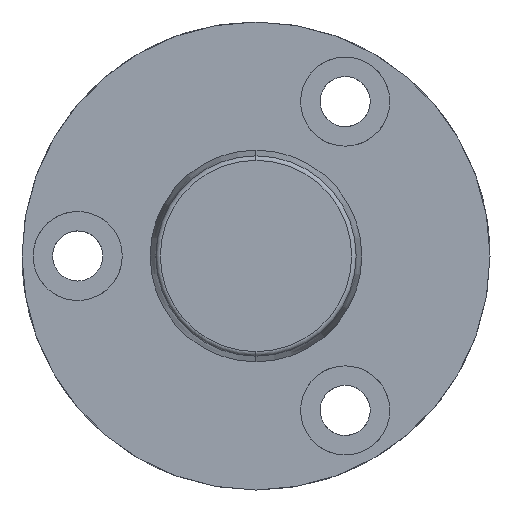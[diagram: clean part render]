
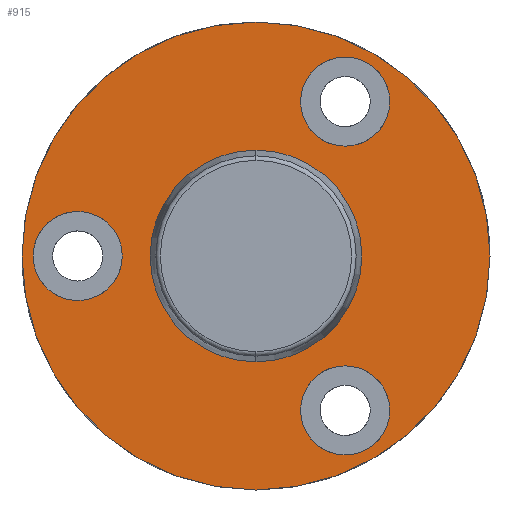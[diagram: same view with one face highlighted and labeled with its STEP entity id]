
A CAD part, left-side view. The second image highlights one B-rep face of the part: STEP entity #915.
In plain terms, the highlighted planar face has unit normal (-1, 0, 0).
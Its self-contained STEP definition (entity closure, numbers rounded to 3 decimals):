
#429=CARTESIAN_POINT('Vertex',(-8.,0.,-21.)) ;
#432=CARTESIAN_POINT('Axis2P3D Location',(-8.,0.,0.)) ;
#436=CARTESIAN_POINT('Vertex',(-8.,21.,0.)) ;
#439=CARTESIAN_POINT('Axis2P3D Location',(-8.,0.,0.)) ;
#443=CARTESIAN_POINT('Vertex',(-8.,0.,21.)) ;
#465=CARTESIAN_POINT('Axis2P3D Location',(-8.,0.,0.)) ;
#469=CARTESIAN_POINT('Vertex',(-8.,-21.,0.)) ;
#472=CARTESIAN_POINT('Axis2P3D Location',(-8.,0.,0.)) ;
#768=CARTESIAN_POINT('Axis2P3D Location',(-8.,8.,0.)) ;
#779=CARTESIAN_POINT('Axis2P3D Location',(-8.,16.,0.)) ;
#783=CARTESIAN_POINT('Vertex',(-8.,16.,4.)) ;
#785=CARTESIAN_POINT('Vertex',(-8.,20.,0.)) ;
#788=CARTESIAN_POINT('Axis2P3D Location',(-8.,16.,0.)) ;
#792=CARTESIAN_POINT('Vertex',(-8.,12.,0.)) ;
#795=CARTESIAN_POINT('Axis2P3D Location',(-8.,16.,0.)) ;
#799=CARTESIAN_POINT('Vertex',(-8.,16.,-4.)) ;
#802=CARTESIAN_POINT('Axis2P3D Location',(-8.,16.,0.)) ;
#813=CARTESIAN_POINT('Axis2P3D Location',(-8.,-8.,13.856)) ;
#817=CARTESIAN_POINT('Vertex',(-8.,-4.,13.856)) ;
#819=CARTESIAN_POINT('Vertex',(-8.,-8.,17.856)) ;
#822=CARTESIAN_POINT('Axis2P3D Location',(-8.,-8.,13.856)) ;
#826=CARTESIAN_POINT('Vertex',(-8.,-12.,13.856)) ;
#829=CARTESIAN_POINT('Axis2P3D Location',(-8.,-8.,13.856)) ;
#833=CARTESIAN_POINT('Vertex',(-8.,-8.,9.856)) ;
#836=CARTESIAN_POINT('Axis2P3D Location',(-8.,-8.,13.856)) ;
#847=CARTESIAN_POINT('Axis2P3D Location',(-8.,-8.,-13.856)) ;
#851=CARTESIAN_POINT('Vertex',(-8.,-4.,-13.856)) ;
#853=CARTESIAN_POINT('Vertex',(-8.,-8.,-9.856)) ;
#856=CARTESIAN_POINT('Axis2P3D Location',(-8.,-8.,-13.856)) ;
#860=CARTESIAN_POINT('Vertex',(-8.,-12.,-13.856)) ;
#863=CARTESIAN_POINT('Axis2P3D Location',(-8.,-8.,-13.856)) ;
#867=CARTESIAN_POINT('Vertex',(-8.,-8.,-17.856)) ;
#870=CARTESIAN_POINT('Axis2P3D Location',(-8.,-8.,-13.856)) ;
#881=CARTESIAN_POINT('Axis2P3D Location',(-8.,0.,0.)) ;
#885=CARTESIAN_POINT('Vertex',(-8.,8.,0.)) ;
#887=CARTESIAN_POINT('Vertex',(-8.,0.,8.)) ;
#890=CARTESIAN_POINT('Axis2P3D Location',(-8.,0.,0.)) ;
#894=CARTESIAN_POINT('Vertex',(-8.,-8.,0.)) ;
#897=CARTESIAN_POINT('Axis2P3D Location',(-8.,0.,0.)) ;
#901=CARTESIAN_POINT('Vertex',(-8.,0.,-8.)) ;
#904=CARTESIAN_POINT('Axis2P3D Location',(-8.,0.,0.)) ;
#433=DIRECTION('Axis2P3D Direction',(-1.,-0.,-0.)) ;
#440=DIRECTION('Axis2P3D Direction',(-1.,-0.,-0.)) ;
#466=DIRECTION('Axis2P3D Direction',(-1.,-0.,-0.)) ;
#473=DIRECTION('Axis2P3D Direction',(-1.,-0.,-0.)) ;
#769=DIRECTION('Axis2P3D Direction',(1.,0.,-0.)) ;
#770=DIRECTION('Axis2P3D XDirection',(-0.,0.,-1.)) ;
#780=DIRECTION('Axis2P3D Direction',(1.,0.,-0.)) ;
#789=DIRECTION('Axis2P3D Direction',(1.,0.,-0.)) ;
#796=DIRECTION('Axis2P3D Direction',(1.,0.,-0.)) ;
#803=DIRECTION('Axis2P3D Direction',(1.,0.,-0.)) ;
#814=DIRECTION('Axis2P3D Direction',(1.,0.,-0.)) ;
#823=DIRECTION('Axis2P3D Direction',(1.,0.,-0.)) ;
#830=DIRECTION('Axis2P3D Direction',(1.,0.,-0.)) ;
#837=DIRECTION('Axis2P3D Direction',(1.,0.,-0.)) ;
#848=DIRECTION('Axis2P3D Direction',(1.,0.,-0.)) ;
#857=DIRECTION('Axis2P3D Direction',(1.,0.,-0.)) ;
#864=DIRECTION('Axis2P3D Direction',(1.,0.,-0.)) ;
#871=DIRECTION('Axis2P3D Direction',(1.,0.,-0.)) ;
#882=DIRECTION('Axis2P3D Direction',(1.,0.,-0.)) ;
#891=DIRECTION('Axis2P3D Direction',(1.,0.,-0.)) ;
#898=DIRECTION('Axis2P3D Direction',(1.,0.,-0.)) ;
#905=DIRECTION('Axis2P3D Direction',(1.,0.,-0.)) ;
#434=AXIS2_PLACEMENT_3D('Circle Axis2P3D',#432,#433,$) ;
#441=AXIS2_PLACEMENT_3D('Circle Axis2P3D',#439,#440,$) ;
#467=AXIS2_PLACEMENT_3D('Circle Axis2P3D',#465,#466,$) ;
#474=AXIS2_PLACEMENT_3D('Circle Axis2P3D',#472,#473,$) ;
#771=AXIS2_PLACEMENT_3D('Plane Axis2P3D',#768,#769,#770) ;
#781=AXIS2_PLACEMENT_3D('Circle Axis2P3D',#779,#780,$) ;
#790=AXIS2_PLACEMENT_3D('Circle Axis2P3D',#788,#789,$) ;
#797=AXIS2_PLACEMENT_3D('Circle Axis2P3D',#795,#796,$) ;
#804=AXIS2_PLACEMENT_3D('Circle Axis2P3D',#802,#803,$) ;
#815=AXIS2_PLACEMENT_3D('Circle Axis2P3D',#813,#814,$) ;
#824=AXIS2_PLACEMENT_3D('Circle Axis2P3D',#822,#823,$) ;
#831=AXIS2_PLACEMENT_3D('Circle Axis2P3D',#829,#830,$) ;
#838=AXIS2_PLACEMENT_3D('Circle Axis2P3D',#836,#837,$) ;
#849=AXIS2_PLACEMENT_3D('Circle Axis2P3D',#847,#848,$) ;
#858=AXIS2_PLACEMENT_3D('Circle Axis2P3D',#856,#857,$) ;
#865=AXIS2_PLACEMENT_3D('Circle Axis2P3D',#863,#864,$) ;
#872=AXIS2_PLACEMENT_3D('Circle Axis2P3D',#870,#871,$) ;
#883=AXIS2_PLACEMENT_3D('Circle Axis2P3D',#881,#882,$) ;
#892=AXIS2_PLACEMENT_3D('Circle Axis2P3D',#890,#891,$) ;
#899=AXIS2_PLACEMENT_3D('Circle Axis2P3D',#897,#898,$) ;
#906=AXIS2_PLACEMENT_3D('Circle Axis2P3D',#904,#905,$) ;
#774=ORIENTED_EDGE('',*,*,#438,.F.) ;
#775=ORIENTED_EDGE('',*,*,#476,.F.) ;
#776=ORIENTED_EDGE('',*,*,#471,.F.) ;
#777=ORIENTED_EDGE('',*,*,#445,.F.) ;
#808=ORIENTED_EDGE('',*,*,#787,.F.) ;
#809=ORIENTED_EDGE('',*,*,#794,.F.) ;
#810=ORIENTED_EDGE('',*,*,#801,.F.) ;
#811=ORIENTED_EDGE('',*,*,#806,.F.) ;
#842=ORIENTED_EDGE('',*,*,#821,.T.) ;
#843=ORIENTED_EDGE('',*,*,#828,.T.) ;
#844=ORIENTED_EDGE('',*,*,#835,.T.) ;
#845=ORIENTED_EDGE('',*,*,#840,.T.) ;
#876=ORIENTED_EDGE('',*,*,#855,.T.) ;
#877=ORIENTED_EDGE('',*,*,#862,.T.) ;
#878=ORIENTED_EDGE('',*,*,#869,.T.) ;
#879=ORIENTED_EDGE('',*,*,#874,.T.) ;
#910=ORIENTED_EDGE('',*,*,#889,.T.) ;
#911=ORIENTED_EDGE('',*,*,#896,.T.) ;
#912=ORIENTED_EDGE('',*,*,#903,.T.) ;
#913=ORIENTED_EDGE('',*,*,#908,.T.) ;
#812=FACE_BOUND('',#807,.T.) ;
#846=FACE_BOUND('',#841,.T.) ;
#880=FACE_BOUND('',#875,.T.) ;
#914=FACE_BOUND('',#909,.T.) ;
#915=ADVANCED_FACE('721-19x210',(#778,#812,#846,#880,#914),#772,.F.) ;
#435=CIRCLE('generated circle',#434,21.) ;
#442=CIRCLE('generated circle',#441,21.) ;
#468=CIRCLE('generated circle',#467,21.) ;
#475=CIRCLE('generated circle',#474,21.) ;
#782=CIRCLE('generated circle',#781,4.) ;
#791=CIRCLE('generated circle',#790,4.) ;
#798=CIRCLE('generated circle',#797,4.) ;
#805=CIRCLE('generated circle',#804,4.) ;
#816=CIRCLE('generated circle',#815,4.) ;
#825=CIRCLE('generated circle',#824,4.) ;
#832=CIRCLE('generated circle',#831,4.) ;
#839=CIRCLE('generated circle',#838,4.) ;
#850=CIRCLE('generated circle',#849,4.) ;
#859=CIRCLE('generated circle',#858,4.) ;
#866=CIRCLE('generated circle',#865,4.) ;
#873=CIRCLE('generated circle',#872,4.) ;
#884=CIRCLE('generated circle',#883,8.) ;
#893=CIRCLE('generated circle',#892,8.) ;
#900=CIRCLE('generated circle',#899,8.) ;
#907=CIRCLE('generated circle',#906,8.) ;
#438=EDGE_CURVE('',#430,#437,#435,.F.) ;
#445=EDGE_CURVE('',#437,#444,#442,.F.) ;
#471=EDGE_CURVE('',#444,#470,#468,.F.) ;
#476=EDGE_CURVE('',#470,#430,#475,.F.) ;
#787=EDGE_CURVE('',#784,#786,#782,.F.) ;
#794=EDGE_CURVE('',#793,#784,#791,.F.) ;
#801=EDGE_CURVE('',#800,#793,#798,.F.) ;
#806=EDGE_CURVE('',#786,#800,#805,.F.) ;
#821=EDGE_CURVE('',#818,#820,#816,.T.) ;
#828=EDGE_CURVE('',#820,#827,#825,.T.) ;
#835=EDGE_CURVE('',#827,#834,#832,.T.) ;
#840=EDGE_CURVE('',#834,#818,#839,.T.) ;
#855=EDGE_CURVE('',#852,#854,#850,.T.) ;
#862=EDGE_CURVE('',#854,#861,#859,.T.) ;
#869=EDGE_CURVE('',#861,#868,#866,.T.) ;
#874=EDGE_CURVE('',#868,#852,#873,.T.) ;
#889=EDGE_CURVE('',#886,#888,#884,.T.) ;
#896=EDGE_CURVE('',#888,#895,#893,.T.) ;
#903=EDGE_CURVE('',#895,#902,#900,.T.) ;
#908=EDGE_CURVE('',#902,#886,#907,.T.) ;
#773=EDGE_LOOP('',(#774,#775,#776,#777)) ;
#807=EDGE_LOOP('',(#808,#809,#810,#811)) ;
#841=EDGE_LOOP('',(#842,#843,#844,#845)) ;
#875=EDGE_LOOP('',(#876,#877,#878,#879)) ;
#909=EDGE_LOOP('',(#910,#911,#912,#913)) ;
#778=FACE_OUTER_BOUND('',#773,.T.) ;
#772=PLANE('Plane',#771) ;
#430=VERTEX_POINT('',#429) ;
#437=VERTEX_POINT('',#436) ;
#444=VERTEX_POINT('',#443) ;
#470=VERTEX_POINT('',#469) ;
#784=VERTEX_POINT('',#783) ;
#786=VERTEX_POINT('',#785) ;
#793=VERTEX_POINT('',#792) ;
#800=VERTEX_POINT('',#799) ;
#818=VERTEX_POINT('',#817) ;
#820=VERTEX_POINT('',#819) ;
#827=VERTEX_POINT('',#826) ;
#834=VERTEX_POINT('',#833) ;
#852=VERTEX_POINT('',#851) ;
#854=VERTEX_POINT('',#853) ;
#861=VERTEX_POINT('',#860) ;
#868=VERTEX_POINT('',#867) ;
#886=VERTEX_POINT('',#885) ;
#888=VERTEX_POINT('',#887) ;
#895=VERTEX_POINT('',#894) ;
#902=VERTEX_POINT('',#901) ;
